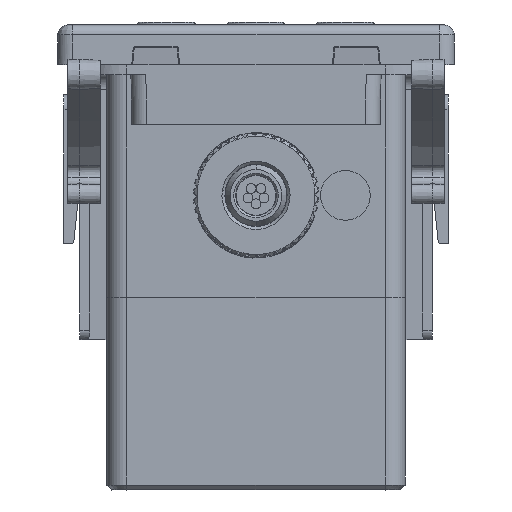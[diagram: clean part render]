
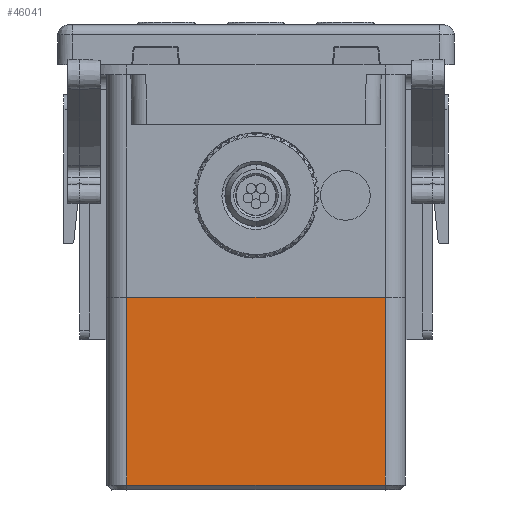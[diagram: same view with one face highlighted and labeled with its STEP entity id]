
A CAD part, front view. The second image highlights one B-rep face of the part: STEP entity #46041.
In plain terms, the highlighted planar face has unit normal (0, -1, 0).
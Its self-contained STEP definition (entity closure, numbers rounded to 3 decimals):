
#13115=DIRECTION('',(1.,0.,0.));
#13116=VECTOR('',#13115,25.999);
#13117=CARTESIAN_POINT('',(-13.,-15.,4.49));
#13118=LINE('',#13117,#13116);
#13119=DIRECTION('',(0.,0.,-1.));
#13120=VECTOR('',#13119,18.89);
#13121=CARTESIAN_POINT('',(13.,-15.,4.49));
#13122=LINE('',#13121,#13120);
#13123=DIRECTION('',(-1.,0.,0.));
#13124=VECTOR('',#13123,25.999);
#13125=CARTESIAN_POINT('',(12.999,-15.,
-14.4));
#13126=LINE('',#13125,#13124);
#13127=DIRECTION('',(0.,0.,1.));
#13128=VECTOR('',#13127,18.89);
#13129=CARTESIAN_POINT('',(-12.999,-15.,
-14.4));
#13130=LINE('',#13129,#13128);
#25283=CARTESIAN_POINT('',(13.,-15.,-14.4));
#25284=VERTEX_POINT('',#25283);
#25287=CARTESIAN_POINT('',(-12.999,-15.,
-14.4));
#25288=VERTEX_POINT('',#25287);
#25465=CARTESIAN_POINT('',(-13.,-15.,4.49));
#25466=CARTESIAN_POINT('',(13.,-15.,4.49));
#25467=VERTEX_POINT('',#25465);
#25468=VERTEX_POINT('',#25466);
#46029=CARTESIAN_POINT('',(-15.,-15.,0.));
#46030=DIRECTION('',(0.,-1.,0.));
#46031=DIRECTION('',(1.,0.,0.));
#46032=AXIS2_PLACEMENT_3D('',#46029,#46030,#46031);
#46033=PLANE('',#46032);
#46034=ORIENTED_EDGE('',*,*,#29582,.T.);
#46036=ORIENTED_EDGE('',*,*,#46035,.T.);
#46037=ORIENTED_EDGE('',*,*,#46023,.T.);
#46038=ORIENTED_EDGE('',*,*,#29551,.T.);
#46039=EDGE_LOOP('',(#46034,#46036,#46037,#46038));
#46040=FACE_OUTER_BOUND('',#46039,.F.);
#46041=ADVANCED_FACE('',(#46040),#46033,.T.);
#29551=EDGE_CURVE('',#25288,#25467,#13130,.T.);
#29582=EDGE_CURVE('',#25467,#25468,#13118,.T.);
#46023=EDGE_CURVE('',#25284,#25288,#13126,.T.);
#46035=EDGE_CURVE('',#25468,#25284,#13122,.T.);
